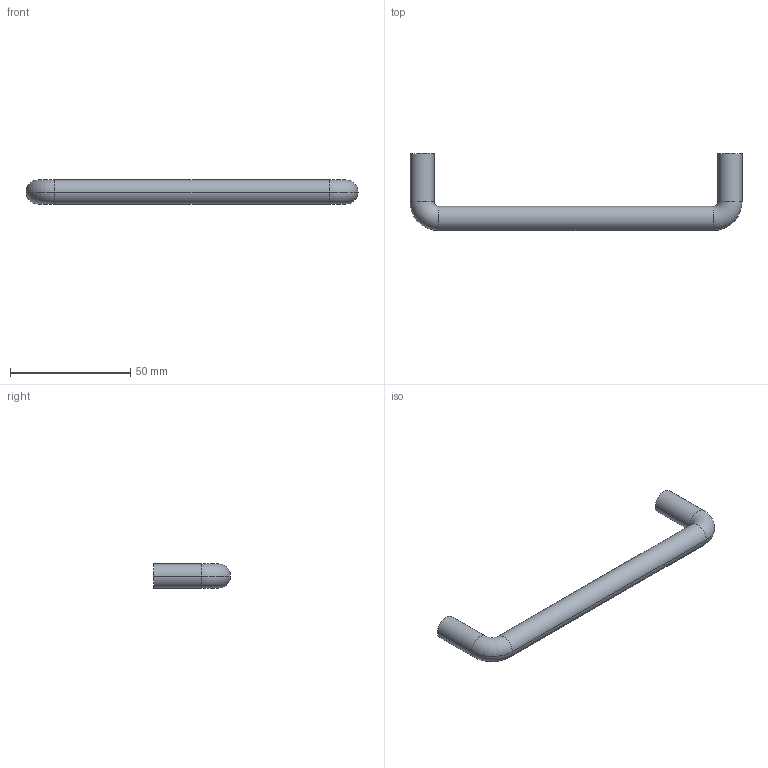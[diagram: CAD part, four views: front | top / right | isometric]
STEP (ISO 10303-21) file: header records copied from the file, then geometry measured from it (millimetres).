
FILE_DESCRIPTION( ( '' ), '1' );
FILE_NAME( 'C:/Documents and Settings/Sachin/Desktop/Sheet 10_1/stp/9069818.stp', '2013-10-22T07:23:06', ( '' ), ( '' ), ' ', ' ', ' ' );
FILE_SCHEMA( ( 'CONFIG_CONTROL_DESIGN' ) );
Length unit declared in the file: millimetre
Products named in the file (1): 1
Bounding box: 138 x 32 x 10 mm (x, y, z)
Volume: 13571 mm3; surface area: 5937.3 mm2
Topology: 1 solids, 1 shells, 18 faces, 34 edges, 20 vertices
Faces by surface type: cylinder 10, torus 4, plane 4
Entity records: 502 total; most frequent: DIRECTION 96, CARTESIAN_POINT 73, ORIENTED_EDGE 68, AXIS2_PLACEMENT_3D 43, EDGE_CURVE 34, CIRCLE 24, EDGE_LOOP 20, VERTEX_POINT 20
